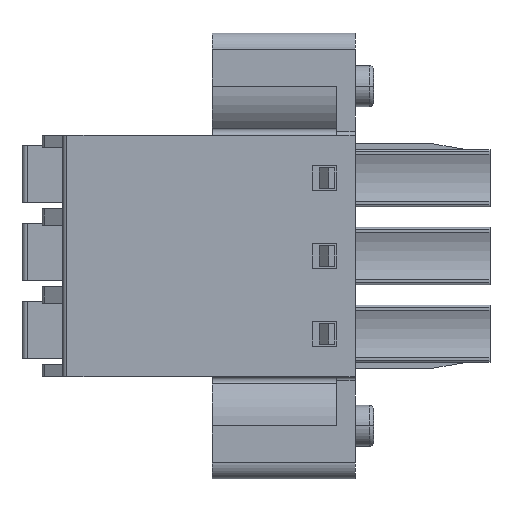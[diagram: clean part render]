
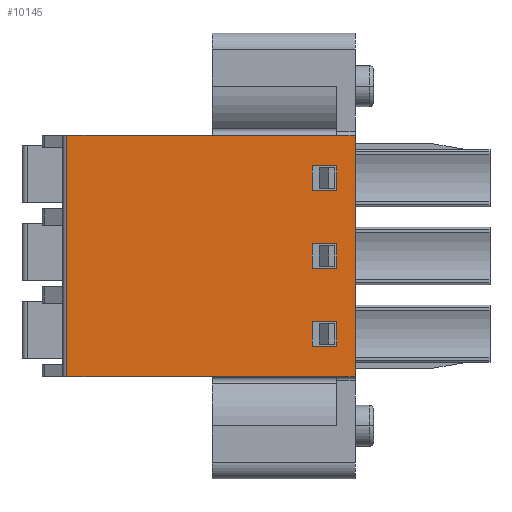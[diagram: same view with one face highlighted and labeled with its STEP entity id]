
A CAD part, left-side view. The second image highlights one B-rep face of the part: STEP entity #10145.
In plain terms, the highlighted planar face has unit normal (-1, 0, 0).
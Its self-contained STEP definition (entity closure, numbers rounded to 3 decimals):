
#1542=DIRECTION('',(0.,1.,0.));
#1543=VECTOR('',#1542,0.9);
#1544=CARTESIAN_POINT('',(0.,0.,-5.));
#1545=LINE('',#1544,#1543);
#1550=DIRECTION('',(0.,0.,-1.));
#1551=VECTOR('',#1550,11.82);
#1552=CARTESIAN_POINT('',(0.,0.,-5.));
#1553=LINE('',#1552,#1551);
#1554=DIRECTION('',(0.,-1.,0.));
#1555=VECTOR('',#1554,13.2);
#1556=CARTESIAN_POINT('',(0.,14.1,-5.));
#1557=LINE('',#1556,#1555);
#1558=DIRECTION('',(0.,0.,-1.));
#1559=VECTOR('',#1558,1.2);
#1560=CARTESIAN_POINT('',(0.,2.1,-14.12));
#1561=LINE('',#1560,#1559);
#1562=DIRECTION('',(0.,0.,1.));
#1563=VECTOR('',#1562,1.2);
#1564=CARTESIAN_POINT('',(0.,0.9,-15.32));
#1565=LINE('',#1564,#1563);
#1566=DIRECTION('',(0.,0.,-1.));
#1567=VECTOR('',#1566,1.2);
#1568=CARTESIAN_POINT('',(0.,2.1,-10.31));
#1569=LINE('',#1568,#1567);
#1570=DIRECTION('',(0.,0.,1.));
#1571=VECTOR('',#1570,1.2);
#1572=CARTESIAN_POINT('',(0.,0.9,-11.51));
#1573=LINE('',#1572,#1571);
#1574=DIRECTION('',(0.,0.,-1.));
#1575=VECTOR('',#1574,1.2);
#1576=CARTESIAN_POINT('',(0.,2.1,-6.5));
#1577=LINE('',#1576,#1575);
#1578=DIRECTION('',(0.,0.,1.));
#1579=VECTOR('',#1578,1.2);
#1580=CARTESIAN_POINT('',(0.,0.9,-7.7));
#1581=LINE('',#1580,#1579);
#1582=DIRECTION('',(0.,-1.,0.));
#1583=VECTOR('',#1582,0.9);
#1584=CARTESIAN_POINT('',(0.,0.9,-16.82));
#1585=LINE('',#1584,#1583);
#1740=DIRECTION('',(0.,-1.,0.));
#1741=VECTOR('',#1740,13.2);
#1742=CARTESIAN_POINT('',(0.,14.1,-16.82));
#1743=LINE('',#1742,#1741);
#1984=DIRECTION('',(0.,0.,-1.));
#1985=VECTOR('',#1984,11.82);
#1986=CARTESIAN_POINT('',(0.,14.1,-5.));
#1987=LINE('',#1986,#1985);
#4832=DIRECTION('',(0.,-1.,0.));
#4833=VECTOR('',#4832,1.2);
#4834=CARTESIAN_POINT('',(0.,2.1,-14.12));
#4835=LINE('',#4834,#4833);
#4996=DIRECTION('',(0.,1.,0.));
#4997=VECTOR('',#4996,1.2);
#4998=CARTESIAN_POINT('',(0.,0.9,-15.32));
#4999=LINE('',#4998,#4997);
#5016=DIRECTION('',(0.,-1.,0.));
#5017=VECTOR('',#5016,1.2);
#5018=CARTESIAN_POINT('',(0.,2.1,-10.31));
#5019=LINE('',#5018,#5017);
#5036=DIRECTION('',(0.,1.,0.));
#5037=VECTOR('',#5036,1.2);
#5038=CARTESIAN_POINT('',(0.,0.9,-11.51));
#5039=LINE('',#5038,#5037);
#5056=DIRECTION('',(0.,-1.,0.));
#5057=VECTOR('',#5056,1.2);
#5058=CARTESIAN_POINT('',(0.,2.1,-6.5));
#5059=LINE('',#5058,#5057);
#5076=DIRECTION('',(0.,1.,0.));
#5077=VECTOR('',#5076,1.2);
#5078=CARTESIAN_POINT('',(0.,0.9,-7.7));
#5079=LINE('',#5078,#5077);
#6248=CARTESIAN_POINT('',(0.,0.,-16.82));
#6249=VERTEX_POINT('',#6248);
#6250=CARTESIAN_POINT('',(0.,0.,-5.));
#6251=VERTEX_POINT('',#6250);
#6604=CARTESIAN_POINT('',(0.,14.1,-5.));
#6605=CARTESIAN_POINT('',(0.,14.1,-16.82));
#6606=VERTEX_POINT('',#6604);
#6607=VERTEX_POINT('',#6605);
#6608=CARTESIAN_POINT('',(0.,0.9,-16.82));
#6609=VERTEX_POINT('',#6608);
#6610=CARTESIAN_POINT('',(0.,0.9,-5.));
#6611=VERTEX_POINT('',#6610);
#6612=CARTESIAN_POINT('',(0.,2.1,-14.12));
#6613=CARTESIAN_POINT('',(0.,0.9,-14.12));
#6614=VERTEX_POINT('',#6612);
#6615=VERTEX_POINT('',#6613);
#6616=CARTESIAN_POINT('',(0.,2.1,-15.32));
#6617=VERTEX_POINT('',#6616);
#6618=CARTESIAN_POINT('',(0.,0.9,-15.32));
#6619=VERTEX_POINT('',#6618);
#6620=CARTESIAN_POINT('',(0.,2.1,-10.31));
#6621=CARTESIAN_POINT('',(0.,0.9,-10.31));
#6622=VERTEX_POINT('',#6620);
#6623=VERTEX_POINT('',#6621);
#6624=CARTESIAN_POINT('',(0.,2.1,-11.51));
#6625=VERTEX_POINT('',#6624);
#6626=CARTESIAN_POINT('',(0.,0.9,-11.51));
#6627=VERTEX_POINT('',#6626);
#6628=CARTESIAN_POINT('',(0.,2.1,-6.5));
#6629=CARTESIAN_POINT('',(0.,0.9,-6.5));
#6630=VERTEX_POINT('',#6628);
#6631=VERTEX_POINT('',#6629);
#6632=CARTESIAN_POINT('',(0.,2.1,-7.7));
#6633=VERTEX_POINT('',#6632);
#6634=CARTESIAN_POINT('',(0.,0.9,-7.7));
#6635=VERTEX_POINT('',#6634);
#10099=CARTESIAN_POINT('',(0.,14.3,-27.9));
#10100=DIRECTION('',(-1.,0.,0.));
#10101=DIRECTION('',(0.,-1.,0.));
#10102=AXIS2_PLACEMENT_3D('',#10099,#10100,#10101);
#10103=PLANE('',#10102);
#10104=ORIENTED_EDGE('',*,*,#8899,.T.);
#10106=ORIENTED_EDGE('',*,*,#10105,.F.);
#10108=ORIENTED_EDGE('',*,*,#10107,.F.);
#10110=ORIENTED_EDGE('',*,*,#10109,.F.);
#10111=ORIENTED_EDGE('',*,*,#9965,.T.);
#10112=ORIENTED_EDGE('',*,*,#10090,.F.);
#10113=EDGE_LOOP('',(#10104,#10106,#10108,#10110,#10111,#10112));
#10114=FACE_OUTER_BOUND('',#10113,.F.);
#10116=ORIENTED_EDGE('',*,*,#10115,.F.);
#10118=ORIENTED_EDGE('',*,*,#10117,.T.);
#10120=ORIENTED_EDGE('',*,*,#10119,.F.);
#10122=ORIENTED_EDGE('',*,*,#10121,.T.);
#10123=EDGE_LOOP('',(#10116,#10118,#10120,#10122));
#10124=FACE_BOUND('',#10123,.F.);
#10126=ORIENTED_EDGE('',*,*,#10125,.F.);
#10128=ORIENTED_EDGE('',*,*,#10127,.T.);
#10130=ORIENTED_EDGE('',*,*,#10129,.F.);
#10132=ORIENTED_EDGE('',*,*,#10131,.T.);
#10133=EDGE_LOOP('',(#10126,#10128,#10130,#10132));
#10134=FACE_BOUND('',#10133,.F.);
#10136=ORIENTED_EDGE('',*,*,#10135,.F.);
#10138=ORIENTED_EDGE('',*,*,#10137,.T.);
#10140=ORIENTED_EDGE('',*,*,#10139,.F.);
#10142=ORIENTED_EDGE('',*,*,#10141,.T.);
#10143=EDGE_LOOP('',(#10136,#10138,#10140,#10142));
#10144=FACE_BOUND('',#10143,.F.);
#10145=ADVANCED_FACE('',(#10114,#10124,#10134,#10144),#10103,.T.);
#8899=EDGE_CURVE('',#6251,#6249,#1553,.T.);
#9965=EDGE_CURVE('',#6606,#6611,#1557,.T.);
#10090=EDGE_CURVE('',#6251,#6611,#1545,.T.);
#10105=EDGE_CURVE('',#6609,#6249,#1585,.T.);
#10107=EDGE_CURVE('',#6607,#6609,#1743,.T.);
#10109=EDGE_CURVE('',#6606,#6607,#1987,.T.);
#10115=EDGE_CURVE('',#6614,#6615,#4835,.T.);
#10117=EDGE_CURVE('',#6614,#6617,#1561,.T.);
#10119=EDGE_CURVE('',#6619,#6617,#4999,.T.);
#10121=EDGE_CURVE('',#6619,#6615,#1565,.T.);
#10125=EDGE_CURVE('',#6622,#6623,#5019,.T.);
#10127=EDGE_CURVE('',#6622,#6625,#1569,.T.);
#10129=EDGE_CURVE('',#6627,#6625,#5039,.T.);
#10131=EDGE_CURVE('',#6627,#6623,#1573,.T.);
#10135=EDGE_CURVE('',#6630,#6631,#5059,.T.);
#10137=EDGE_CURVE('',#6630,#6633,#1577,.T.);
#10139=EDGE_CURVE('',#6635,#6633,#5079,.T.);
#10141=EDGE_CURVE('',#6635,#6631,#1581,.T.);
